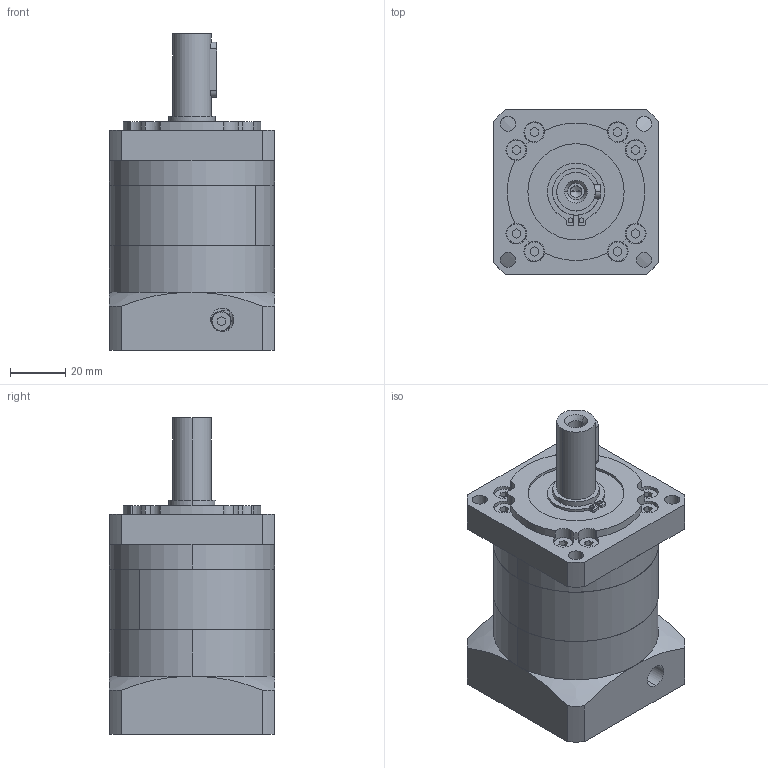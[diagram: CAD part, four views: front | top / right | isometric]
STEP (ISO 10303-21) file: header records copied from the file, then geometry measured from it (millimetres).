
FILE_DESCRIPTION (( 'STEP AP214' ), '1' );
FILE_NAME ('PRF60-L1 目录1.STEP', '2020-09-03T03:14:48', ( '微软用户' ), ( '微软中国' ), 'SwSTEP 2.0', 'SolidWorks 2014', '' );
FILE_SCHEMA (( 'AUTOMOTIVE_DESIGN' ));
Length unit declared in the file: millimetre
Products named in the file (15): PLF60-窣諉啣-梓袧_D8-50 D9-70 D10-M10 L4-22 L6-32(22+10) L7-4 A2-60 R-39.5 梓袧; PLF60 狟屳唳_D6-60 D7-14 梓袧; PLF60 奻屳唳_D1-70 D2-5.5 D3-14 D4-17 D5-50 L1-30 L2-35 L3-3 A1-60 S1-3 S2-20 S3-5 S4-18 B-5 H-16 C-M5; PLF60 κｳﾝﾈｦ_ﾒｻｼｶﾄﾚｳﾝﾈｦ; 囀鞠褒蹟佪-M4℅12; 粣創-6004 20x42x12; 邧埴瑩 5x5x20; PRF60-L1 Ŀ¼1
Assembly tree (7 placements, depth 2):
  粣創-6004 20x42x12
  邧埴瑩 5x5x20
  PLF60-窣諉啣-梓袧_D8-50 D9-70 D10-M10 L4-22 L6-32(22+10) L7-4 A2-60 R-39.5 梓袧
  PLF60 狟屳唳_D6-60 D7-14 梓袧
  PLF60 奻屳唳_D1-70 D2-5.5 D3-14 D4-17 D5-50 L1-30 L2-35 L3-3 A1-60 S1-3 S2-20 S3-5 S4-18 B-5 H-16 C-M5
Bounding box: 60 x 60 x 115 mm (x, y, z)
Volume: 223058.5 mm3; surface area: 68163.6 mm2
Topology: 7 solids, 7 shells, 501 faces, 1347 edges, 879 vertices
Faces by surface type: cylinder 186, plane 182, bspline 118, cone 15
Entity records: 25621 total; most frequent: CARTESIAN_POINT 7683, ORIENTED_EDGE 2674, DIRECTION 2360, EDGE_CURVE 1337, AXIS2_PLACEMENT_3D 948, VERTEX_POINT 879, EDGE_LOOP 594, CIRCLE 554
